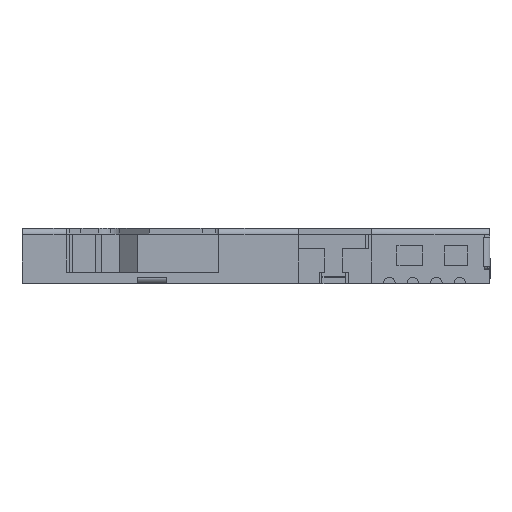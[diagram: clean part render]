
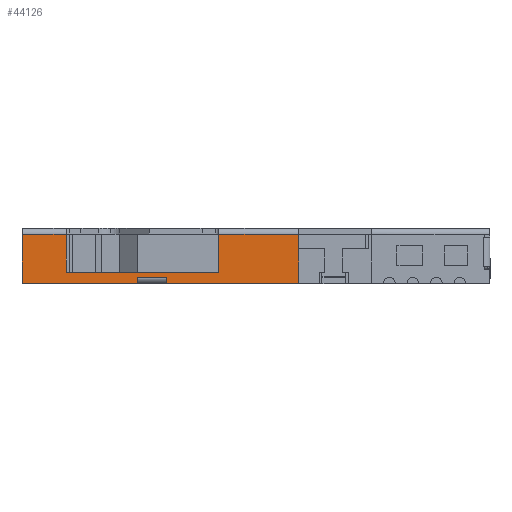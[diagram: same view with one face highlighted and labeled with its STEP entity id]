
A CAD part, left-side view. The second image highlights one B-rep face of the part: STEP entity #44126.
In plain terms, the highlighted planar face has unit normal (-1, 0, 0).
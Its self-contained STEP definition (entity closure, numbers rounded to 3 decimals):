
#172 = CARTESIAN_POINT ( 'NONE',  ( -6.925, 4.055, 0. ) ) ;
#606 = ORIENTED_EDGE ( 'NONE', *, *, #17868, .T. ) ;
#853 = CARTESIAN_POINT ( 'NONE',  ( -6.925, 6.475, -1.5 ) ) ;
#856 = VERTEX_POINT ( 'NONE', #7196 ) ;
#1637 = ORIENTED_EDGE ( 'NONE', *, *, #7480, .F. ) ;
#2149 = VECTOR ( 'NONE', #5355, 1000. ) ;
#2555 = LINE ( 'NONE', #34820, #12113 ) ;
#3498 = ORIENTED_EDGE ( 'NONE', *, *, #26334, .F. ) ;
#3674 = VERTEX_POINT ( 'NONE', #18243 ) ;
#4987 = VECTOR ( 'NONE', #43033, 1000. ) ;
#5347 = CARTESIAN_POINT ( 'NONE',  ( -6.925, 4.055, -1.68 ) ) ;
#5355 = DIRECTION ( 'NONE',  ( 0., -1., 0. ) ) ;
#6433 = CARTESIAN_POINT ( 'NONE',  ( -6.925, -7.975, -0.21 ) ) ;
#6652 = DIRECTION ( 'NONE',  ( 0., 0., -1. ) ) ;
#7196 = CARTESIAN_POINT ( 'NONE',  ( -6.925, 6.475, -0.21 ) ) ;
#7312 = DIRECTION ( 'NONE',  ( 0., 0., -1. ) ) ;
#7480 = EDGE_CURVE ( 'NONE', #44330, #25059, #9226, .T. ) ;
#7493 = LINE ( 'NONE', #21154, #4987 ) ;
#7956 = EDGE_CURVE ( 'NONE', #32579, #29989, #36646, .T. ) ;
#8003 = LINE ( 'NONE', #43517, #14824 ) ;
#9226 = LINE ( 'NONE', #44533, #35026 ) ;
#10073 = ORIENTED_EDGE ( 'NONE', *, *, #18750, .T. ) ;
#12113 = VECTOR ( 'NONE', #35050, 1000. ) ;
#13498 = EDGE_CURVE ( 'NONE', #3674, #25059, #30888, .T. ) ;
#13920 = LINE ( 'NONE', #41568, #23854 ) ;
#14181 = LINE ( 'NONE', #15074, #24007 ) ;
#14824 = VECTOR ( 'NONE', #22117, 1000. ) ;
#15074 = CARTESIAN_POINT ( 'NONE',  ( -6.925, 0., -1.88 ) ) ;
#15971 = ORIENTED_EDGE ( 'NONE', *, *, #13498, .T. ) ;
#17195 = VECTOR ( 'NONE', #25593, 1000. ) ;
#17280 = DIRECTION ( 'NONE',  ( 1., 0., 0. ) ) ;
#17561 = AXIS2_PLACEMENT_3D ( 'NONE', #28244, #17280, #6652 ) ;
#17868 = EDGE_CURVE ( 'NONE', #18519, #27647, #19416, .T. ) ;
#18243 = CARTESIAN_POINT ( 'NONE',  ( -6.925, 4.055, -1.68 ) ) ;
#18319 = CARTESIAN_POINT ( 'NONE',  ( -6.925, 0., -1.88 ) ) ;
#18519 = VERTEX_POINT ( 'NONE', #40947 ) ;
#18613 = CARTESIAN_POINT ( 'NONE',  ( -6.925, 1.275, -0.21 ) ) ;
#18750 = EDGE_CURVE ( 'NONE', #27647, #24385, #14181, .T. ) ;
#19135 = CARTESIAN_POINT ( 'NONE',  ( -6.925, -1.445, -1.88 ) ) ;
#19263 = ORIENTED_EDGE ( 'NONE', *, *, #38608, .T. ) ;
#19416 = LINE ( 'NONE', #33677, #21249 ) ;
#19580 = ORIENTED_EDGE ( 'NONE', *, *, #28820, .F. ) ;
#20723 = LINE ( 'NONE', #172, #40735 ) ;
#21050 = VERTEX_POINT ( 'NONE', #19135 ) ;
#21154 = CARTESIAN_POINT ( 'NONE',  ( -6.925, -7.975, -0.21 ) ) ;
#21249 = VECTOR ( 'NONE', #23141, 1000. ) ;
#21618 = EDGE_CURVE ( 'NONE', #32579, #856, #2555, .T. ) ;
#22076 = DIRECTION ( 'NONE',  ( 0., -1., 0. ) ) ;
#22117 = DIRECTION ( 'NONE',  ( 0., 0., 1. ) ) ;
#22436 = CARTESIAN_POINT ( 'NONE',  ( -6.925, 3.055, -1.68 ) ) ;
#22952 = DIRECTION ( 'NONE',  ( 0., -1., 0. ) ) ;
#23141 = DIRECTION ( 'NONE',  ( 0., 0., -1. ) ) ;
#23854 = VECTOR ( 'NONE', #38394, 1000. ) ;
#24007 = VECTOR ( 'NONE', #22076, 1000. ) ;
#24101 = ORIENTED_EDGE ( 'NONE', *, *, #27836, .T. ) ;
#24371 = EDGE_CURVE ( 'NONE', #26482, #36756, #27769, .T. ) ;
#24385 = VERTEX_POINT ( 'NONE', #28710 ) ;
#25059 = VERTEX_POINT ( 'NONE', #22436 ) ;
#25593 = DIRECTION ( 'NONE',  ( 0., -1., 0. ) ) ;
#25670 = ORIENTED_EDGE ( 'NONE', *, *, #24371, .F. ) ;
#25875 = EDGE_LOOP ( 'NONE', ( #3498, #15971, #1637, #19263, #24101, #25670, #19580, #45857, #27060, #44086, #606, #10073 ) ) ;
#26086 = CARTESIAN_POINT ( 'NONE',  ( -6.925, 3.055, -1.88 ) ) ;
#26202 = CARTESIAN_POINT ( 'NONE',  ( -6.925, 7.975, -1.88 ) ) ;
#26334 = EDGE_CURVE ( 'NONE', #3674, #24385, #20723, .T. ) ;
#26482 = VERTEX_POINT ( 'NONE', #18613 ) ;
#26847 = PLANE ( 'NONE',  #17561 ) ;
#27060 = ORIENTED_EDGE ( 'NONE', *, *, #21618, .T. ) ;
#27647 = VERTEX_POINT ( 'NONE', #26202 ) ;
#27769 = LINE ( 'NONE', #6433, #2149 ) ;
#27836 = EDGE_CURVE ( 'NONE', #21050, #36756, #8003, .T. ) ;
#28244 = CARTESIAN_POINT ( 'NONE',  ( -6.925, 0., 0. ) ) ;
#28710 = CARTESIAN_POINT ( 'NONE',  ( -6.925, 4.055, -1.88 ) ) ;
#28820 = EDGE_CURVE ( 'NONE', #29989, #26482, #13920, .T. ) ;
#29989 = VERTEX_POINT ( 'NONE', #34571 ) ;
#30888 = LINE ( 'NONE', #5347, #36585 ) ;
#32579 = VERTEX_POINT ( 'NONE', #40460 ) ;
#33254 = EDGE_CURVE ( 'NONE', #18519, #856, #7493, .T. ) ;
#33677 = CARTESIAN_POINT ( 'NONE',  ( -6.925, 7.975, 0. ) ) ;
#34514 = CARTESIAN_POINT ( 'NONE',  ( -6.925, -1.445, -0.21 ) ) ;
#34571 = CARTESIAN_POINT ( 'NONE',  ( -6.925, 1.275, -1.5 ) ) ;
#34820 = CARTESIAN_POINT ( 'NONE',  ( -6.925, 6.475, -1.5 ) ) ;
#35026 = VECTOR ( 'NONE', #38314, 1000. ) ;
#35050 = DIRECTION ( 'NONE',  ( 0., 0., 1. ) ) ;
#36585 = VECTOR ( 'NONE', #22952, 1000. ) ;
#36646 = LINE ( 'NONE', #853, #17195 ) ;
#36756 = VERTEX_POINT ( 'NONE', #34514 ) ;
#38314 = DIRECTION ( 'NONE',  ( 0., 0., 1. ) ) ;
#38394 = DIRECTION ( 'NONE',  ( 0., 0., 1. ) ) ;
#38608 = EDGE_CURVE ( 'NONE', #44330, #21050, #43199, .T. ) ;
#39501 = DIRECTION ( 'NONE',  ( 0., -1., 0. ) ) ;
#40326 = VECTOR ( 'NONE', #39501, 1000. ) ;
#40377 = FACE_OUTER_BOUND ( 'NONE', #25875, .T. ) ;
#40460 = CARTESIAN_POINT ( 'NONE',  ( -6.925, 6.475, -1.5 ) ) ;
#40735 = VECTOR ( 'NONE', #7312, 1000. ) ;
#40947 = CARTESIAN_POINT ( 'NONE',  ( -6.925, 7.975, -0.21 ) ) ;
#41568 = CARTESIAN_POINT ( 'NONE',  ( -6.925, 1.275, -1.5 ) ) ;
#43033 = DIRECTION ( 'NONE',  ( 0., -1., 0. ) ) ;
#43199 = LINE ( 'NONE', #18319, #40326 ) ;
#43517 = CARTESIAN_POINT ( 'NONE',  ( -6.925, -1.445, -1.88 ) ) ;
#44086 = ORIENTED_EDGE ( 'NONE', *, *, #33254, .F. ) ;
#44126 = ADVANCED_FACE ( 'NONE', ( #40377 ), #26847, .F. ) ;
#44330 = VERTEX_POINT ( 'NONE', #26086 ) ;
#44533 = CARTESIAN_POINT ( 'NONE',  ( -6.925, 3.055, 0. ) ) ;
#45857 = ORIENTED_EDGE ( 'NONE', *, *, #7956, .F. ) ;
